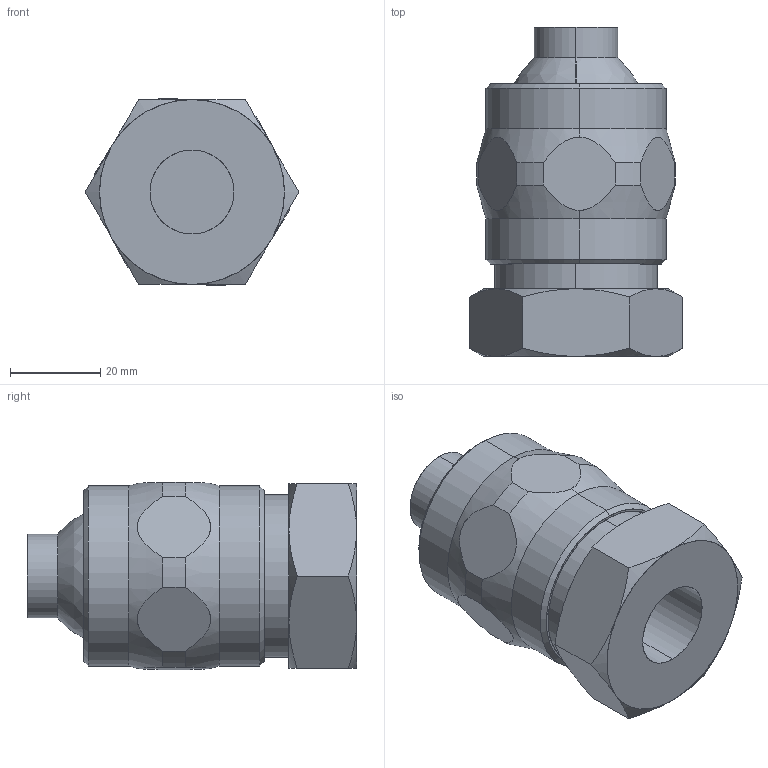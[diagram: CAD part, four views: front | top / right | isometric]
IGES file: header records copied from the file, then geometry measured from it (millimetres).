
Start section: SolidWorks IGES file using analytic representation for surfaces
Global section: file name: G:\Silvent\Ritningar\Övrigt\IGES\Silvent 705+A.IGS; native system: SolidWorks 2006 by SolidWorks Corporation; preprocessor: SolidWorks 2006 by SolidWorks Corporation; author: SilvRaTi; date: 090713.111350; units: millimetre
Bounding box: 47.34 x 73 x 41.56 mm (x, y, z)
Surface area: 24689.4 mm2 (no closed solid volume)
Topology: 0 solids, 0 shells, 72 faces, 1532 edges, 1532 vertices
Faces by surface type: revolution 50, bspline 22
